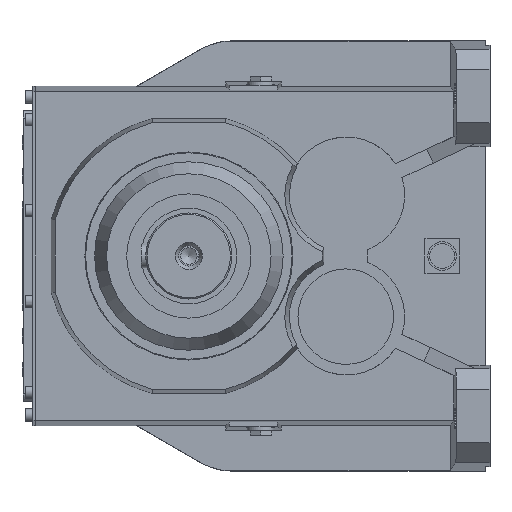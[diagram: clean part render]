
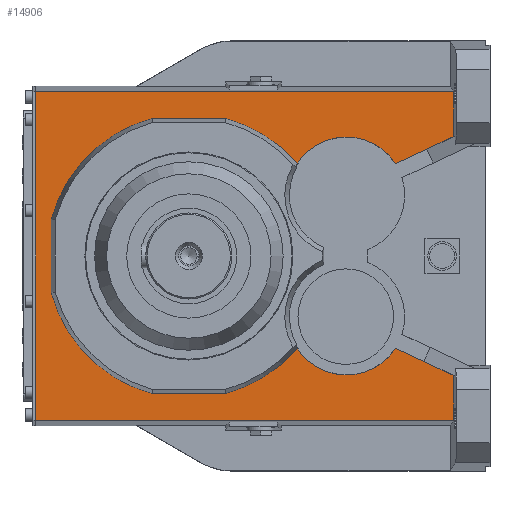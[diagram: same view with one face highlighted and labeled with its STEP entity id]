
A CAD part, left-side view. The second image highlights one B-rep face of the part: STEP entity #14906.
In plain terms, the highlighted planar face has unit normal (-1, 0, 0) as drawn and (1, 0, 0) by its records, which use the part's own axes.
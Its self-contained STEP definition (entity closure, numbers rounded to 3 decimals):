
#147=PLANE('',#15661);
#535=LINE('',#19676,#1610);
#557=LINE('',#19833,#1632);
#558=LINE('',#19835,#1633);
#559=LINE('',#19837,#1634);
#577=LINE('',#19889,#1652);
#591=LINE('',#19917,#1666);
#605=LINE('',#19944,#1680);
#824=LINE('',#20497,#1899);
#825=LINE('',#20499,#1900);
#826=LINE('',#20500,#1901);
#1610=VECTOR('',#16499,1000.);
#1632=VECTOR('',#16615,1000.);
#1633=VECTOR('',#16618,1000.);
#1634=VECTOR('',#16621,1000.);
#1652=VECTOR('',#16671,1000.);
#1666=VECTOR('',#16693,1000.);
#1680=VECTOR('',#16709,1000.);
#1899=VECTOR('',#17226,1000.);
#1900=VECTOR('',#17227,1000.);
#1901=VECTOR('',#17228,1000.);
#2793=CIRCLE('',#15438,61.);
#2804=CIRCLE('',#15462,148.94);
#2807=CIRCLE('',#15466,148.94);
#2809=CIRCLE('',#15469,148.94);
#2812=CIRCLE('',#15473,148.94);
#2822=CIRCLE('',#15495,61.);
#3872=ORIENTED_EDGE('',*,*,#6646,.T.);
#3873=ORIENTED_EDGE('',*,*,#6647,.F.);
#3874=ORIENTED_EDGE('',*,*,#6324,.F.);
#3875=ORIENTED_EDGE('',*,*,#6296,.F.);
#3876=ORIENTED_EDGE('',*,*,#6320,.F.);
#3877=ORIENTED_EDGE('',*,*,#6306,.F.);
#3878=ORIENTED_EDGE('',*,*,#6318,.T.);
#3879=ORIENTED_EDGE('',*,*,#6300,.F.);
#3880=ORIENTED_EDGE('',*,*,#6319,.T.);
#3881=ORIENTED_EDGE('',*,*,#6290,.F.);
#3882=ORIENTED_EDGE('',*,*,#6240,.F.);
#3883=ORIENTED_EDGE('',*,*,#6648,.T.);
#3884=ORIENTED_EDGE('',*,*,#6259,.T.);
#3885=ORIENTED_EDGE('',*,*,#6359,.T.);
#3886=ORIENTED_EDGE('',*,*,#6373,.F.);
#3887=ORIENTED_EDGE('',*,*,#6345,.F.);
#6240=EDGE_CURVE('',#7760,#7762,#2793,.T.);
#6259=EDGE_CURVE('',#7771,#7778,#535,.T.);
#6290=EDGE_CURVE('',#7762,#7801,#2804,.T.);
#6296=EDGE_CURVE('',#7806,#7807,#2807,.T.);
#6300=EDGE_CURVE('',#7809,#7811,#2809,.T.);
#6306=EDGE_CURVE('',#7816,#7814,#2812,.T.);
#6318=EDGE_CURVE('',#7816,#7811,#557,.T.);
#6319=EDGE_CURVE('',#7809,#7801,#558,.T.);
#6320=EDGE_CURVE('',#7814,#7806,#559,.T.);
#6324=EDGE_CURVE('',#7807,#7825,#2822,.T.);
#6345=EDGE_CURVE('',#7840,#7841,#577,.T.);
#6359=EDGE_CURVE('',#7778,#7851,#591,.T.);
#6373=EDGE_CURVE('',#7841,#7851,#605,.T.);
#6646=EDGE_CURVE('',#7840,#8048,#824,.T.);
#6647=EDGE_CURVE('',#7825,#8048,#825,.T.);
#6648=EDGE_CURVE('',#7760,#7771,#826,.T.);
#7760=VERTEX_POINT('',#19633);
#7762=VERTEX_POINT('',#19636);
#7771=VERTEX_POINT('',#19661);
#7778=VERTEX_POINT('',#19675);
#7801=VERTEX_POINT('',#19749);
#7806=VERTEX_POINT('',#19769);
#7807=VERTEX_POINT('',#19771);
#7809=VERTEX_POINT('',#19783);
#7811=VERTEX_POINT('',#19786);
#7814=VERTEX_POINT('',#19799);
#7816=VERTEX_POINT('',#19806);
#7825=VERTEX_POINT('',#19846);
#7840=VERTEX_POINT('',#19888);
#7841=VERTEX_POINT('',#19890);
#7851=VERTEX_POINT('',#19918);
#8048=VERTEX_POINT('',#20498);
#9043=EDGE_LOOP('',(#3872,#3873,#3874,#3875,#3876,#3877,#3878,#3879,#3880,
#3881,#3882,#3883,#3884,#3885,#3886,#3887));
#9825=FACE_BOUND('',#9043,.T.);
#14906=ADVANCED_FACE('',(#9825),#147,.F.);
#15438=AXIS2_PLACEMENT_3D('',#19635,#16474,#16475);
#15462=AXIS2_PLACEMENT_3D('',#19748,#16556,#16557);
#15466=AXIS2_PLACEMENT_3D('',#19770,#16564,#16565);
#15469=AXIS2_PLACEMENT_3D('',#19785,#16570,#16571);
#15473=AXIS2_PLACEMENT_3D('',#19807,#16578,#16579);
#15495=AXIS2_PLACEMENT_3D('',#19845,#16630,#16631);
#15661=AXIS2_PLACEMENT_3D('',#20496,#17224,#17225);
#16474=DIRECTION('',(1.,0.,0.));
#16475=DIRECTION('',(0.,0.,-1.));
#16499=DIRECTION('',(0.,0.,-1.));
#16556=DIRECTION('',(1.,0.,0.));
#16557=DIRECTION('',(0.,0.,-1.));
#16564=DIRECTION('',(1.,0.,0.));
#16565=DIRECTION('',(0.,0.,-1.));
#16570=DIRECTION('',(1.,0.,0.));
#16571=DIRECTION('',(0.,0.,-1.));
#16578=DIRECTION('',(1.,0.,0.));
#16579=DIRECTION('',(0.,0.,-1.));
#16615=DIRECTION('',(0.,0.,-1.));
#16618=DIRECTION('',(0.,-1.,0.));
#16621=DIRECTION('',(0.,-1.,0.));
#16630=DIRECTION('',(1.,0.,0.));
#16631=DIRECTION('',(0.,0.,-1.));
#16671=DIRECTION('',(0.,1.,0.));
#16693=DIRECTION('',(0.,1.,0.));
#16709=DIRECTION('',(0.,0.,-1.));
#17224=DIRECTION('',(-1.,0.,0.));
#17225=DIRECTION('',(0.,0.,1.));
#17226=DIRECTION('',(0.,0.,-1.));
#17227=DIRECTION('',(0.,-0.906,0.423));
#17228=DIRECTION('',(0.,-0.906,-0.423));
#19633=CARTESIAN_POINT('',(340.,-216.068,-96.44));
#19635=CARTESIAN_POINT('',(340.,-164.78,-63.417));
#19636=CARTESIAN_POINT('',(340.,-113.496,-96.446));
#19661=CARTESIAN_POINT('',(340.,-277.206,-124.949));
#19675=CARTESIAN_POINT('',(340.,-277.206,-171.866));
#19676=CARTESIAN_POINT('',(340.,-277.206,300.));
#19748=CARTESIAN_POINT('',(340.,0.,0.));
#19749=CARTESIAN_POINT('',(340.,-38.279,-143.937));
#19769=CARTESIAN_POINT('',(340.,-38.279,143.937));
#19770=CARTESIAN_POINT('',(340.,0.,0.));
#19771=CARTESIAN_POINT('',(340.,-113.496,96.446));
#19783=CARTESIAN_POINT('',(340.,38.279,-143.937));
#19785=CARTESIAN_POINT('',(340.,0.,0.));
#19786=CARTESIAN_POINT('',(340.,143.937,-38.279));
#19799=CARTESIAN_POINT('',(340.,38.279,143.937));
#19806=CARTESIAN_POINT('',(340.,143.937,38.279));
#19807=CARTESIAN_POINT('',(340.,0.,0.));
#19833=CARTESIAN_POINT('',(340.,143.937,100.));
#19835=CARTESIAN_POINT('',(340.,100.,-143.937));
#19837=CARTESIAN_POINT('',(340.,100.,143.937));
#19845=CARTESIAN_POINT('',(340.,-164.78,63.417));
#19846=CARTESIAN_POINT('',(340.,-216.068,96.44));
#19888=CARTESIAN_POINT('',(340.,-277.206,171.866));
#19889=CARTESIAN_POINT('',(340.,-310.,171.866));
#19890=CARTESIAN_POINT('',(340.,160.,171.866));
#19917=CARTESIAN_POINT('',(340.,-310.,-171.866));
#19918=CARTESIAN_POINT('',(340.,160.,-171.866));
#19944=CARTESIAN_POINT('',(340.,160.,171.866));
#20496=CARTESIAN_POINT('',(340.,-270.,114.997));
#20497=CARTESIAN_POINT('',(340.,-277.206,300.));
#20498=CARTESIAN_POINT('',(340.,-277.206,124.949));
#20499=CARTESIAN_POINT('',(340.,-209.315,93.291));
#20500=CARTESIAN_POINT('',(340.,-203.478,-90.569));
